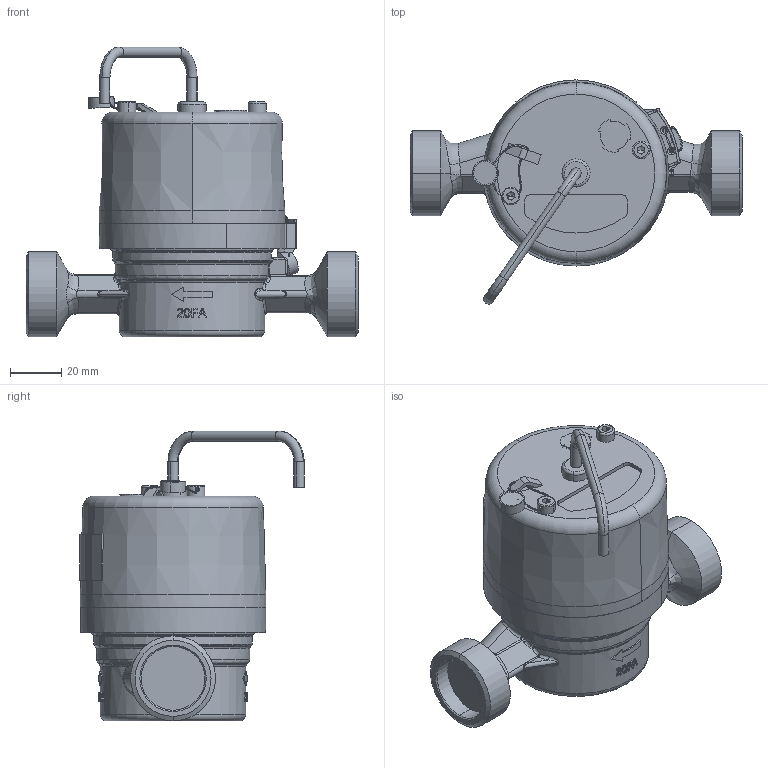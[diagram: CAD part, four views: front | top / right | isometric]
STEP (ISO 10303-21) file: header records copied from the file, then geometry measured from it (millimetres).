
FILE_DESCRIPTION (( 'STEP AP214' ), '1' );
FILE_NAME ('JS90-1,5-G1-NC.STEP', '2025-08-01T07:33:46', ( '' ), ( '' ), 'SwSTEP 2.0', 'SolidWorks 2019', '' );
FILE_SCHEMA (( 'AUTOMOTIVE_DESIGN' ));
Length unit declared in the file: millimetre
Products named in the file (1): JS90-1,5-G1-NC
Bounding box: 130 x 87.85 x 113.51 mm (x, y, z)
Volume: 278985.6 mm3; surface area: 88194.1 mm2
Topology: 16 solids, 25 shells, 1414 faces, 3666 edges, 2335 vertices
Faces by surface type: plane 744, cylinder 356, bspline 134, cone 89, torus 83, sphere 8
Entity records: 65773 total; most frequent: CARTESIAN_POINT 16584, ORIENTED_EDGE 7298, DIRECTION 6976, EDGE_CURVE 3649, AXIS2_PLACEMENT_3D 2490, VERTEX_POINT 2335, VECTOR 1996, LINE 1996
